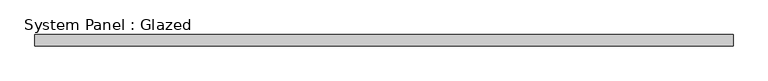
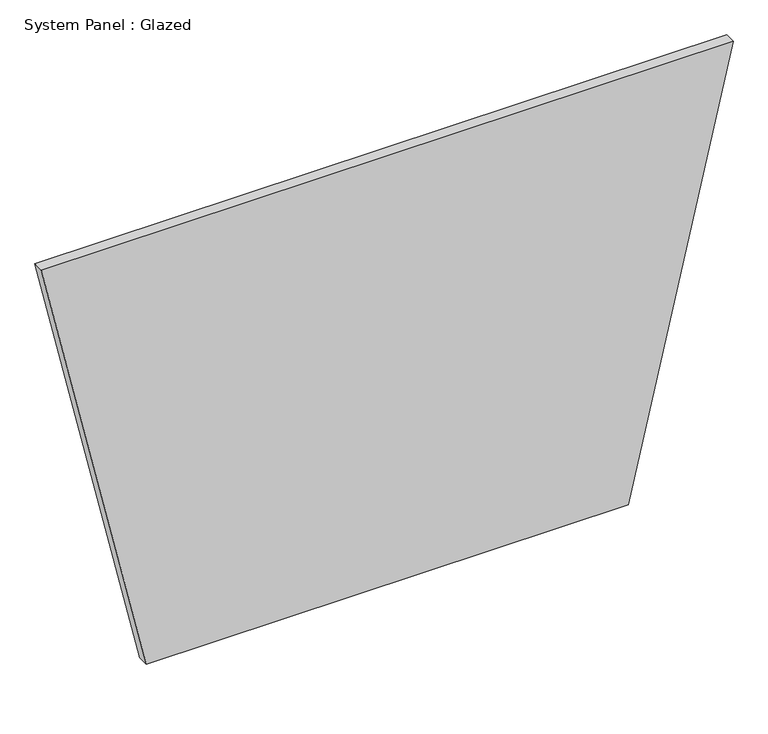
"""IFC4 building model written with IfcOpenShell, lengths in millimetres: plate geometry, System Panel : Glazed."""

import ifcopenshell
import ifcopenshell.guid

model = None  # the IFC model being written
_history = None  # IfcOwnerHistory: only IFC2X3 demands one
_inside = {}  # id of a spatial element -> (the spatial element, [elements in it])
_under = {}  # id of a project, library or spatial element -> (it, [spatial elements below it])
_declared = {}  # id of a project -> (the project, [libraries it declares])
_typed = {}  # id of a type object -> (the type object, [elements of that type])
_made_of = {}  # id of a material, layer set ... -> (it, [elements and type objects made of it])


def new_model(schema):
    """Start an empty IFC model of exactly this schema.

    Asked for "IFC4X3", IfcOpenShell would pick the latest addendum, in which some entities
    have other attributes; the version numbers below select the first issue.
    IFC2X3 requires an IfcOwnerHistory on every rooted entity: one is made here for all.
    """
    global model, _history
    if schema == "IFC4X3":
        model = ifcopenshell.file(schema_version=(4, 3, 0, 0))
    else:
        model = ifcopenshell.file(schema=schema)
    _inside.clear()
    _under.clear()
    _declared.clear()
    _typed.clear()
    _made_of.clear()
    _history = None
    if model.schema == "IFC2X3":
        org = make("IfcOrganization", Name="unknown")
        user = make(
            "IfcPersonAndOrganization",
            ThePerson=make("IfcPerson", FamilyName="unknown"),
            TheOrganization=org,
        )
        app = make(
            "IfcApplication",
            ApplicationDeveloper=org,
            Version="unknown",
            ApplicationFullName="unknown",
            ApplicationIdentifier="unknown",
        )
        _history = make(
            "IfcOwnerHistory",
            OwningUser=user,
            OwningApplication=app,
            ChangeAction="ADDED",
            CreationDate=0,
        )
    return model


def make(cls, **values):
    """One entity of the class cls with the attributes given. An attribute that is None is left unset."""
    return model.create_entity(
        cls, **{name: value for name, value in values.items() if value is not None}
    )


def rooted(cls, **values):
    """An entity with a GlobalId (a new one), such as an element, a storey or a relation."""
    return make(cls, GlobalId=ifcopenshell.guid.new(), OwnerHistory=_history, **values)


def si_unit(unit_type, name, prefix=None):
    """IfcSIUnit, for example si_unit("LENGTHUNIT", "METRE", prefix="MILLI")."""
    return make("IfcSIUnit", UnitType=unit_type, Prefix=prefix, Name=name)


def assignment(units):
    """IfcUnitAssignment: the units of a project."""
    return None if units is None else make("IfcUnitAssignment", Units=units)


def point(xyz):
    """IfcCartesianPoint."""
    return None if xyz is None else make("IfcCartesianPoint", Coordinates=xyz)


def direction(xyz):
    """IfcDirection."""
    return None if xyz is None else make("IfcDirection", DirectionRatios=xyz)


def frame(location, z_axis=None, x_axis=None):
    """IfcAxis2Placement3D, a coordinate frame: its origin and axes. An axis left out is left unset."""
    return make(
        "IfcAxis2Placement3D",
        Location=point(location),
        Axis=direction(z_axis),
        RefDirection=direction(x_axis),
    )


def origin():
    """The frame at (0, 0, 0) with its axes left unset."""
    return frame((0.0, 0.0, 0.0))


def place(relative_to, where):
    """IfcLocalPlacement: puts the frame where relative to a parent placement (None: the world)."""
    return make(
        "IfcLocalPlacement", PlacementRelTo=relative_to, RelativePlacement=where
    )


def context(
    kind, dimensions, precision=None, world=None, true_north=None, identifier=None
):
    """IfcGeometricRepresentationContext, for example the 3D "Model" context."""
    return make(
        "IfcGeometricRepresentationContext",
        ContextIdentifier=identifier,
        ContextType=kind,
        CoordinateSpaceDimension=dimensions,
        Precision=precision,
        WorldCoordinateSystem=world,
        TrueNorth=true_north,
    )


def project(units=None, contexts=None):
    """IfcProject with its units and contexts."""
    return rooted(
        "IfcProject",
        Name="project",
        RepresentationContexts=contexts,
        UnitsInContext=assignment(units),
    )


def spatial(cls, under=None, at=None, **own):
    """A site, building, storey or space (cls), placed at a placement, below another one or the project."""
    s = rooted(cls, ObjectPlacement=at, **own)
    if under is not None:
        _under.setdefault(under.id(), (under, []))[1].append(s)
    return s


def polyline(points):
    """IfcPolyline through the points."""
    return make("IfcPolyline", Points=[point(p) for p in points])


def outline(outer, holes=None, kind="AREA"):
    """IfcArbitraryClosedProfileDef: a profile drawn as a closed curve; with holes, ...WithVoids."""
    if holes is None:
        return make("IfcArbitraryClosedProfileDef", ProfileType=kind, OuterCurve=outer)
    return make(
        "IfcArbitraryProfileDefWithVoids",
        ProfileType=kind,
        OuterCurve=outer,
        InnerCurves=holes,
    )


def extrude(swept, where, along, depth):
    """IfcExtrudedAreaSolid: the profile swept, set in the frame where, extruded along a direction by depth."""
    return make(
        "IfcExtrudedAreaSolid",
        SweptArea=swept,
        Position=where,
        ExtrudedDirection=direction(along),
        Depth=depth,
    )


def shape(context_of_items, identifier, shape_type, items):
    """IfcShapeRepresentation: the items that make up one representation, for example the "Body"."""
    return make(
        "IfcShapeRepresentation",
        ContextOfItems=context_of_items,
        RepresentationIdentifier=identifier,
        RepresentationType=shape_type,
        Items=items,
    )


def source(mapping_origin, context_of_items, identifier, shape_type, items):
    """IfcRepresentationMap: a shape defined once, which mapped items show again and again."""
    return make(
        "IfcRepresentationMap",
        MappingOrigin=mapping_origin,
        MappedRepresentation=shape(context_of_items, identifier, shape_type, items),
    )


def transform(
    local_origin,
    x_axis=None,
    y_axis=None,
    z_axis=None,
    scale=None,
    scale2=None,
    scale3=None,
    uniform=True,
):
    """IfcCartesianTransformationOperator3D, or its non-uniform kind. x_axis, y_axis, z_axis: its Axis1, 2, 3."""
    if uniform:
        return make(
            "IfcCartesianTransformationOperator3D",
            Axis1=direction(x_axis),
            Axis2=direction(y_axis),
            LocalOrigin=point(local_origin),
            Scale=scale,
            Axis3=direction(z_axis),
        )
    return make(
        "IfcCartesianTransformationOperator3DnonUniform",
        Axis1=direction(x_axis),
        Axis2=direction(y_axis),
        LocalOrigin=point(local_origin),
        Scale=scale,
        Axis3=direction(z_axis),
        Scale2=scale2,
        Scale3=scale3,
    )


def mapped(mapping_source, mapping_target):
    """IfcMappedItem: shows the shape of a source again, moved by a transform."""
    return make(
        "IfcMappedItem", MappingSource=mapping_source, MappingTarget=mapping_target
    )


def made_of(thing, what):
    """Note that an element or type object is made of a material, layer set ...; save() writes the relation."""
    if what is not None:
        _made_of.setdefault(what.id(), (what, []))[1].append(thing)
    return thing


def element(
    cls,
    number,
    at=None,
    inside=None,
    cuts=None,
    type_object=None,
    material=None,
    context=None,
    identifier="Body",
    shape_type=None,
    held_by="IfcProductDefinitionShape",
    body=None,
    shapes=None,
    **own,
):
    """One element of the class cls, such as IfcWall. Its Tag is "e" and its number.

    at: its placement. inside: the storey or other place that contains it. cuts: it is an
    opening in that element (IfcRelVoidsElement). A single representation is given by context,
    identifier, shape_type and body (its items); several are given by shapes. held_by: the class
    of the entity that holds the representations. save() writes the other relations.
    """
    e = rooted(cls, Tag="e%d" % number, ObjectPlacement=at, **own)
    if body is not None:
        shapes = [shape(context, identifier, shape_type, body)]
    if shapes is not None:
        e.Representation = make(held_by, Representations=shapes)
    if inside is not None:
        _inside.setdefault(inside.id(), (inside, []))[1].append(e)
    if cuts is not None:
        rooted(
            "IfcRelVoidsElement", RelatingBuildingElement=cuts, RelatedOpeningElement=e
        )
    if type_object is not None:
        _typed.setdefault(type_object.id(), (type_object, []))[1].append(e)
    return made_of(e, material)


def aggregate(whole, parts):
    """IfcRelAggregates: a whole, such as a stair, and the parts it consists of."""
    return rooted("IfcRelAggregates", RelatingObject=whole, RelatedObjects=parts)


def save(model, path):
    """Write the relations noted so far, then the file.

    IfcRelAggregates (storeys below a building ...), IfcRelContainedInSpatialStructure (elements
    in a storey), IfcRelDefinesByType, IfcRelAssociatesMaterial and IfcRelDeclares: one each for
    every whole, place, type object, material and project.
    """
    for whole, parts in _under.values():
        aggregate(whole, parts)
    for where, things in _inside.values():
        rooted(
            "IfcRelContainedInSpatialStructure",
            RelatedElements=things,
            RelatingStructure=where,
        )
    for kind, things in _typed.values():
        rooted("IfcRelDefinesByType", RelatedObjects=things, RelatingType=kind)
    for what, things in _made_of.values():
        rooted("IfcRelAssociatesMaterial", RelatedObjects=things, RelatingMaterial=what)
    for by, libraries in _declared.values():
        rooted("IfcRelDeclares", RelatingContext=by, RelatedDefinitions=libraries)
    model.write(path)


def system_panel_glazed_e93355c8(model_context):
    return source(origin(), model_context, "Body", "SweptSolid", [
        extrude(outline(polyline([(0.0, -552.3786949), (0.0, 552.3786949), (1039.2680737, 793.1775963), (1039.2680737, -793.1775963), (0.0, -552.3786949)])), frame((0.0, -44.45, 0.0), z_axis=(0.0, 1.0, 0.0), x_axis=(0.0, 0.0, 1.0)), (0.0, 0.0, 1.0), 25.4),
    ])


if __name__ == "__main__":
    model = new_model("IFC4")
    model_context = context("Model", 3, world=origin())
    ifc_project = project(units=[si_unit("LENGTHUNIT", "METRE", prefix="MILLI")], contexts=[model_context])
    site = spatial("IfcSite", under=ifc_project)
    building = spatial("IfcBuilding", under=site)
    placement = place(None, origin())
    system_panel_glazed_shape = system_panel_glazed_e93355c8(model_context)
    element("IfcPlate", 1, ObjectType="System Panel : Glazed", at=placement, inside=building, context=model_context, shape_type="MappedRepresentation", body=[
        mapped(system_panel_glazed_shape, transform((0.0, 0.0, 0.0), x_axis=(1.0, 0.0, 0.0), y_axis=(0.0, 1.0, 0.0), z_axis=(0.0, 0.0, 1.0))),
    ])
    save(model, "model.ifc")
